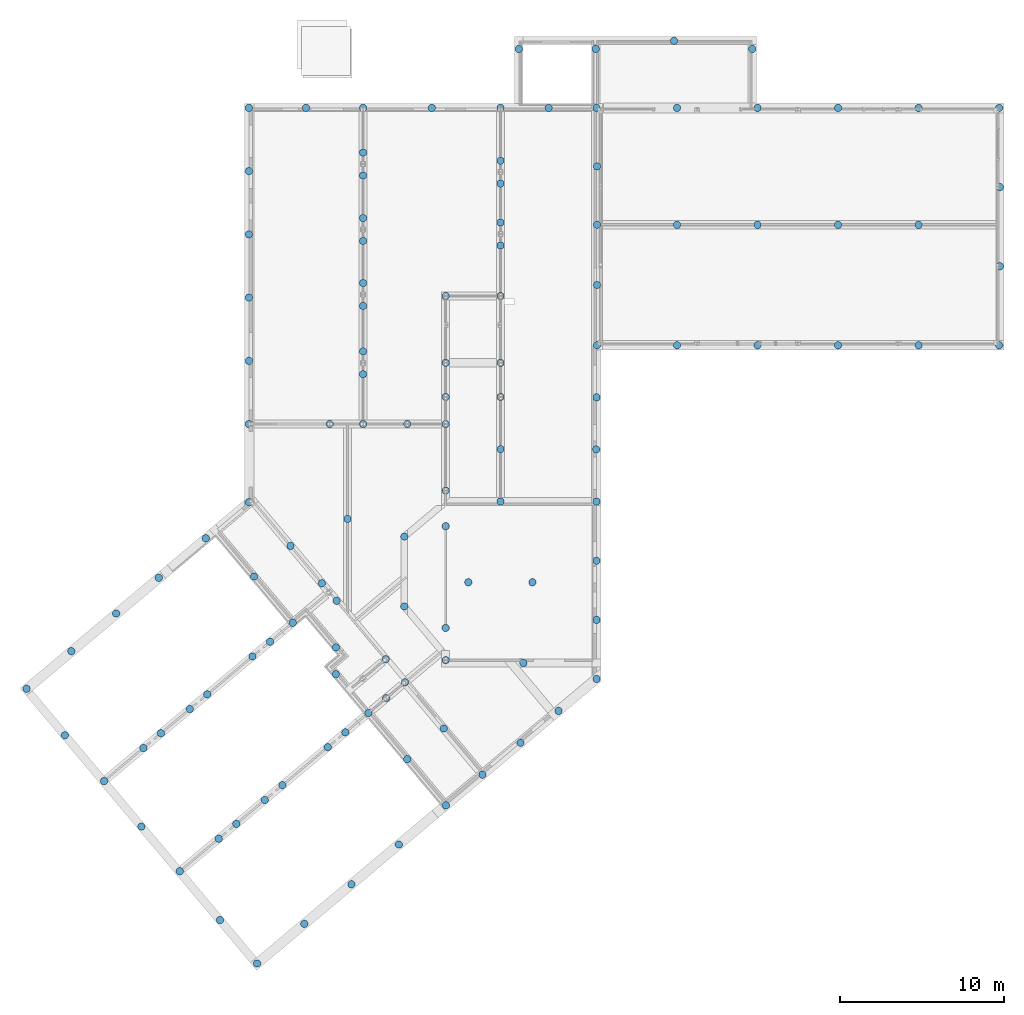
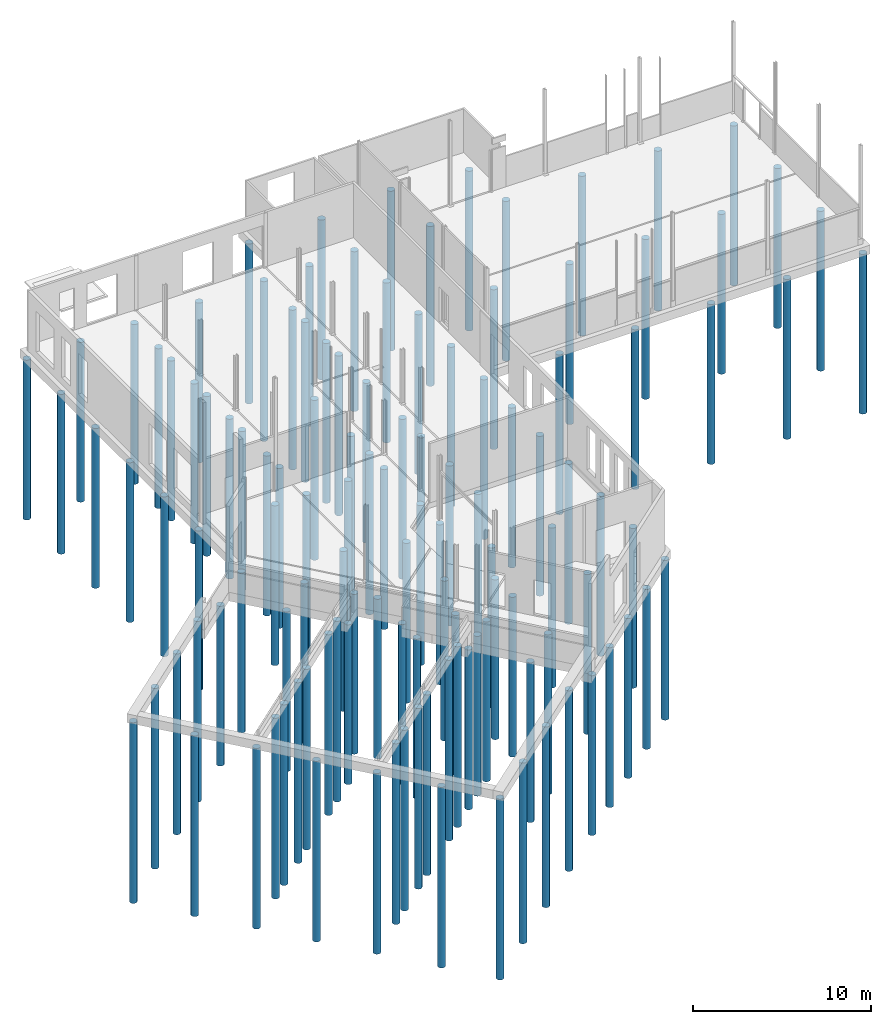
# One storey, part 1 of 18: 120 piles.
"""IFC2X3 building model written with IfcOpenShell, lengths in millimetres."""

from ifc_helpers import new_model, entity, si_unit, converted_unit, derived_unit, direction, frame, frame_2d, origin, place, context, subcontext, project, spatial, circle, extrude, source, transform, mapped, element, save


model = new_model("IFC2X3")

# Units and contexts
model_context = context("Model", 3, precision=0.01, world=origin(), true_north=direction((6.12303176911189e-17, 1.0)))
body_context = subcontext(model_context, "Body", "Model", "MODEL_VIEW")
ifc_project = project(units=[si_unit("LENGTHUNIT", "METRE", prefix="MILLI"), si_unit("AREAUNIT", "SQUARE_METRE"), si_unit("VOLUMEUNIT", "CUBIC_METRE"), converted_unit("PLANEANGLEUNIT", "DEGREE", entity("IfcRatioMeasure", 0.0174532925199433), si_unit("PLANEANGLEUNIT", "RADIAN"), dimensions=[0, 0, 0, 0, 0, 0, 0]), si_unit("MASSUNIT", "GRAM", prefix="KILO"), derived_unit("MASSDENSITYUNIT", [(si_unit("MASSUNIT", "GRAM", prefix="KILO"), 1), (si_unit("LENGTHUNIT", "METRE"), -3)]), derived_unit("MOMENTOFINERTIAUNIT", [(si_unit("LENGTHUNIT", "METRE"), 4)]), si_unit("TIMEUNIT", "SECOND"), si_unit("FREQUENCYUNIT", "HERTZ"), si_unit("THERMODYNAMICTEMPERATUREUNIT", "DEGREE_CELSIUS"), derived_unit("THERMALTRANSMITTANCEUNIT", [(si_unit("MASSUNIT", "GRAM", prefix="KILO"), 1), (si_unit("THERMODYNAMICTEMPERATUREUNIT", "KELVIN"), -1), (si_unit("TIMEUNIT", "SECOND"), -3)]), derived_unit("VOLUMETRICFLOWRATEUNIT", [(si_unit("LENGTHUNIT", "METRE"), 3), (si_unit("TIMEUNIT", "SECOND"), -1)]), si_unit("ELECTRICCURRENTUNIT", "AMPERE"), si_unit("ELECTRICVOLTAGEUNIT", "VOLT"), si_unit("POWERUNIT", "WATT"), si_unit("FORCEUNIT", "NEWTON", prefix="KILO"), si_unit("ILLUMINANCEUNIT", "LUX"), si_unit("LUMINOUSFLUXUNIT", "LUMEN"), si_unit("LUMINOUSINTENSITYUNIT", "CANDELA"), derived_unit("USERDEFINED", [(si_unit("MASSUNIT", "GRAM", prefix="KILO"), -1), (si_unit("LENGTHUNIT", "METRE"), -2), (si_unit("TIMEUNIT", "SECOND"), 3), (si_unit("LUMINOUSFLUXUNIT", "LUMEN"), 1)]), derived_unit("LINEARVELOCITYUNIT", [(si_unit("LENGTHUNIT", "METRE"), 1), (si_unit("TIMEUNIT", "SECOND"), -1)]), si_unit("PRESSUREUNIT", "PASCAL"), derived_unit("USERDEFINED", [(si_unit("LENGTHUNIT", "METRE"), -2), (si_unit("MASSUNIT", "GRAM", prefix="KILO"), 1), (si_unit("TIMEUNIT", "SECOND"), -2)]), derived_unit("LINEARFORCEUNIT", [(si_unit("MASSUNIT", "GRAM", prefix="KILO"), 1), (si_unit("LENGTHUNIT", "METRE"), 1), (si_unit("TIMEUNIT", "SECOND"), -2), (si_unit("LENGTHUNIT", "METRE"), -1)]), derived_unit("PLANARFORCEUNIT", [(si_unit("MASSUNIT", "GRAM", prefix="KILO"), 1), (si_unit("LENGTHUNIT", "METRE"), 1), (si_unit("TIMEUNIT", "SECOND"), -2), (si_unit("LENGTHUNIT", "METRE"), -2)])], contexts=[model_context])

# Site, building, storey
site_placement = place(None, origin())
site = spatial("IfcSite", under=ifc_project, at=site_placement, Name="Default", CompositionType="ELEMENT")
building_placement = place(site_placement, origin())
building = spatial("IfcBuilding", under=site, at=building_placement, CompositionType="ELEMENT")
storey_placement = place(building_placement, frame((0.0, 0.0, -1085.0)))
storey = spatial("IfcBuildingStorey", under=building, at=storey_placement, Name="-00 fundatie", CompositionType="ELEMENT", Elevation=-1085.0)

# Piles
shared_shape_1 = source(origin(), body_context, "Body", "SweptSolid", [
    extrude(circle(Radius=225.0, at=frame_2d((3.38395977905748e-14, -3.30214225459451e-13), x_axis=(1.0, 0.0))), frame((0.0, 0.0, -12000.0), z_axis=(0.0, 0.0, 1.0), x_axis=(-1.0, 0.0, 0.0)), (0.0, 0.0, 1.0), 10955.0),
])
for number, where, name in (
    (1, (13595.4349765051, 35495.9488747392, 1085.0), "BERSnl_17_SFO_TLB_funderingspaal rond_gen_ISR:funderinspaal rond gen d 450"),
    (2, (13595.4349765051, 31632.9488747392, 1085.0), "BERSnl_17_SFO_TLB_funderingspaal rond_gen_ISR:funderinspaal rond gen d 450"),
    (3, (13595.4349765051, 27769.9488747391, 1085.0), "BERSnl_17_SFO_TLB_funderingspaal rond_gen_ISR:funderinspaal rond gen d 450"),
    (4, (13595.4349765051, 23906.9488747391, 1085.0), "BERSnl_17_SFO_TLB_funderingspaal rond_gen_ISR:funderinspaal rond gen d 450"),
    (5, (13595.4349765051, 20043.9488747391, 1085.0), "BERSnl_17_SFO_TLB_funderingspaal rond_gen_ISR:funderinspaal rond gen d 450"),
    (6, (13595.4349765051, 16181.9025809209, 1085.0), "BERSnl_17_SFO_TLB_funderingspaal rond_gen_ISR:funderinspaal rond gen d 450"),
    (7, (13595.4349765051, 11407.9244744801, 1085.0), "BERSnl_17_SFO_TLB_funderingspaal rond_gen_ISR:funderinspaal rond gen d 450"),
    (8, (20569.4349765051, 35495.9488747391, 1085.0), "BERSnl_17_SFO_TLB_funderingspaal rond_gen_ISR:funderinspaal rond gen d 450"),
    (9, (17082.4349765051, 35495.9488747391, 1085.0), "BERSnl_17_SFO_TLB_funderingspaal rond_gen_ISR:funderinspaal rond gen d 450"),
    (10, (20569.4349765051, 32767.2966282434, 1085.0), "BERSnl_17_SFO_TLB_funderingspaal rond_gen_ISR:funderinspaal rond gen d 450"),
    (11, (20569.4349765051, 31367.2966282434, 1085.0), "BERSnl_17_SFO_TLB_funderingspaal rond_gen_ISR:funderinspaal rond gen d 450"),
    (12, (20569.4349765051, 28767.2966282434, 1085.0), "BERSnl_17_SFO_TLB_funderingspaal rond_gen_ISR:funderinspaal rond gen d 450"),
    (13, (20569.4349765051, 27367.2966282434, 1085.0), "BERSnl_17_SFO_TLB_funderingspaal rond_gen_ISR:funderinspaal rond gen d 450"),
    (14, (20569.4349765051, 24797.2966282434, 1085.0), "BERSnl_17_SFO_TLB_funderingspaal rond_gen_ISR:funderinspaal rond gen d 450"),
    (15, (20569.4349765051, 23397.2966282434, 1085.0), "BERSnl_17_SFO_TLB_funderingspaal rond_gen_ISR:funderinspaal rond gen d 450"),
    (16, (20569.4349765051, 20621.8399254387, 1085.0), "BERSnl_17_SFO_TLB_funderingspaal rond_gen_ISR:funderinspaal rond gen d 450"),
    (17, (20569.4349765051, 19221.8399254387, 1085.0), "BERSnl_17_SFO_TLB_funderingspaal rond_gen_ISR:funderinspaal rond gen d 450"),
    (18, (28969.4349765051, 35495.9488747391, 1085.0), "BERSnl_17_SFO_TLB_funderingspaal rond_gen_ISR:funderinspaal rond gen d 450"),
    (19, (24769.4349765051, 35495.9488747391, 1085.0), "BERSnl_17_SFO_TLB_funderingspaal rond_gen_ISR:funderinspaal rond gen d 450"),
    (20, (28969.4349765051, 32272.2966282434, 1085.0), "BERSnl_17_SFO_TLB_funderingspaal rond_gen_ISR:funderinspaal rond gen d 450"),
    (21, (28969.4349765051, 30872.2966282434, 1085.0), "BERSnl_17_SFO_TLB_funderingspaal rond_gen_ISR:funderinspaal rond gen d 450"),
    (22, (28969.4349765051, 28492.2966282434, 1085.0), "BERSnl_17_SFO_TLB_funderingspaal rond_gen_ISR:funderinspaal rond gen d 450"),
    (23, (28969.4349765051, 27092.2966282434, 1085.0), "BERSnl_17_SFO_TLB_funderingspaal rond_gen_ISR:funderinspaal rond gen d 450"),
    (24, (28969.4349765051, 24002.2966282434, 1085.0), "BERSnl_17_SFO_TLB_funderingspaal rond_gen_ISR:funderinspaal rond gen d 450"),
    (25, (25615.4349765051, 24002.2966282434, 1085.0), "BERSnl_17_SFO_TLB_funderingspaal rond_gen_ISR:funderinspaal rond gen d 450"),
    (26, (28969.4349765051, 19921.8399254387, 1085.0), "BERSnl_17_SFO_TLB_funderingspaal rond_gen_ISR:funderinspaal rond gen d 450"),
    (27, (25615.434976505, 19921.8399254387, 1085.0), "BERSnl_17_SFO_TLB_funderingspaal rond_gen_ISR:funderinspaal rond gen d 450"),
    (28, (28969.4349765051, 17833.5697997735, 1085.0), "BERSnl_17_SFO_TLB_funderingspaal rond_gen_ISR:funderinspaal rond gen d 450"),
    (29, (25615.434976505, 17833.5697997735, 1085.0), "BERSnl_17_SFO_TLB_funderingspaal rond_gen_ISR:funderinspaal rond gen d 450"),
    (30, (25615.434976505, 16182.2966282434, 1085.0), "BERSnl_17_SFO_TLB_funderingspaal rond_gen_ISR:funderinspaal rond gen d 450"),
    (31, (25615.434976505, 12114.0621216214, 1085.0), "BERSnl_17_SFO_TLB_funderingspaal rond_gen_ISR:funderinspaal rond gen d 450"),
    (32, (28969.4349765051, 11442.2966282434, 1085.0), "BERSnl_17_SFO_TLB_funderingspaal rond_gen_ISR:funderinspaal rond gen d 450"),
    (33, (28969.4349765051, 14642.2966282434, 1085.0), "BERSnl_17_SFO_TLB_funderingspaal rond_gen_ISR:funderinspaal rond gen d 450"),
    (34, (18535.4349765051, 16181.9025809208, 1085.0), "BERSnl_17_SFO_TLB_funderingspaal rond_gen_ISR:funderinspaal rond gen d 450"),
    (35, (20567.4349765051, 16181.9025809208, 1085.0), "BERSnl_17_SFO_TLB_funderingspaal rond_gen_ISR:funderinspaal rond gen d 450"),
    (36, (23267.4349765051, 16181.9025809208, 1085.0), "BERSnl_17_SFO_TLB_funderingspaal rond_gen_ISR:funderinspaal rond gen d 450"),
    (37, (30085.4349765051, 39096.2966282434, 1085.0), "BERSnl_17_SFO_TLB_funderingspaal rond_gen_ISR:funderinspaal rond gen d 450"),
    (38, (34783.4270571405, 39097.2928714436, 1085.0), "BERSnl_17_SFO_TLB_funderingspaal rond_gen_ISR:funderinspaal rond gen d 450"),
    (39, (34834.4349765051, 35495.9488747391, 1085.0), "BERSnl_17_SFO_TLB_funderingspaal rond_gen_ISR:funderinspaal rond gen d 450"),
    (40, (44353.4270571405, 39097.2928714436, 1085.0), "BERSnl_17_SFO_TLB_funderingspaal rond_gen_ISR:funderinspaal rond gen d 450"),
    (41, (39568.4270571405, 39595.9488747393, 1085.0), "BERSnl_17_SFO_TLB_funderingspaal rond_gen_ISR:funderinspaal rond gen d 450"),
    (42, (59434.4349765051, 35495.948874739, 1085.0), "BERSnl_17_SFO_TLB_funderingspaal rond_gen_ISR:funderinspaal rond gen d 450"),
    (43, (39754.4349765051, 35495.9488747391, 1085.0), "BERSnl_17_SFO_TLB_funderingspaal rond_gen_ISR:funderinspaal rond gen d 450"),
    (44, (44674.4349765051, 35495.948874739, 1085.0), "BERSnl_17_SFO_TLB_funderingspaal rond_gen_ISR:funderinspaal rond gen d 450"),
    (45, (49594.4349765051, 35495.948874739, 1085.0), "BERSnl_17_SFO_TLB_funderingspaal rond_gen_ISR:funderinspaal rond gen d 450"),
    (46, (54514.4349765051, 35495.9488747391, 1085.0), "BERSnl_17_SFO_TLB_funderingspaal rond_gen_ISR:funderinspaal rond gen d 450"),
    (47, (34863.4270571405, 28356.4404189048, 1085.0), "BERSnl_17_SFO_TLB_funderingspaal rond_gen_ISR:funderinspaal rond gen d 450"),
    (48, (34863.4270571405, 31926.4404189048, 1085.0), "BERSnl_17_SFO_TLB_funderingspaal rond_gen_ISR:funderinspaal rond gen d 450"),
    (49, (44674.4349765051, 20995.9488747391, 1085.0), "BERSnl_17_SFO_TLB_funderingspaal rond_gen_ISR:funderinspaal rond gen d 450"),
    (50, (49594.4349765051, 20995.9488747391, 1085.0), "BERSnl_17_SFO_TLB_funderingspaal rond_gen_ISR:funderinspaal rond gen d 450"),
    (51, (54514.4349765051, 20995.9488747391, 1085.0), "BERSnl_17_SFO_TLB_funderingspaal rond_gen_ISR:funderinspaal rond gen d 450"),
    (52, (39754.4349765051, 20995.601121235, 1085.0), "BERSnl_17_SFO_TLB_funderingspaal rond_gen_ISR:funderinspaal rond gen d 450"),
    (53, (34863.4270571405, 20995.9488747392, 1085.0), "BERSnl_17_SFO_TLB_funderingspaal rond_gen_ISR:funderinspaal rond gen d 450"),
    (54, (34863.4270571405, 24676.4404189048, 1085.0), "BERSnl_17_SFO_TLB_funderingspaal rond_gen_ISR:funderinspaal rond gen d 450"),
    (55, (59434.4349765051, 20995.948874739, 1085.0), "BERSnl_17_SFO_TLB_funderingspaal rond_gen_ISR:funderinspaal rond gen d 450"),
    (56, (59483.4270571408, 25825.948874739, 1085.0), "BERSnl_17_SFO_TLB_funderingspaal rond_gen_ISR:funderinspaal rond gen d 450"),
    (57, (59483.4270571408, 30655.948874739, 1085.0), "BERSnl_17_SFO_TLB_funderingspaal rond_gen_ISR:funderinspaal rond gen d 450"),
    (58, (44674.4349765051, 28353.0926654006, 1085.0), "BERSnl_17_SFO_TLB_funderingspaal rond_gen_ISR:funderinspaal rond gen d 450"),
    (59, (49594.4349765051, 28353.0926654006, 1085.0), "BERSnl_17_SFO_TLB_funderingspaal rond_gen_ISR:funderinspaal rond gen d 450"),
    (60, (54514.4349765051, 28353.0926654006, 1085.0), "BERSnl_17_SFO_TLB_funderingspaal rond_gen_ISR:funderinspaal rond gen d 450"),
    (61, (39754.4349765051, 28352.7449118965, 1085.0), "BERSnl_17_SFO_TLB_funderingspaal rond_gen_ISR:funderinspaal rond gen d 450"),
    (62, (34833.4270571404, 11442.2966282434, 1085.0), "BERSnl_17_SFO_TLB_funderingspaal rond_gen_ISR:funderinspaal rond gen d 450"),
    (63, (34833.4270571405, 17811.9488747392, 1085.0), "BERSnl_17_SFO_TLB_funderingspaal rond_gen_ISR:funderinspaal rond gen d 450"),
    (64, (34813.4270571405, 14631.9488747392, 1085.0), "BERSnl_17_SFO_TLB_funderingspaal rond_gen_ISR:funderinspaal rond gen d 450"),
    (65, (34833.4270571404, 603.744755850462, 1085.0), "BERSnl_17_SFO_TLB_funderingspaal rond_gen_ISR:funderinspaal rond gen d 450"),
    (66, (34833.4270571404, 7829.29662824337, 1085.0), "BERSnl_17_SFO_TLB_funderingspaal rond_gen_ISR:funderinspaal rond gen d 450"),
    (67, (34833.4270571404, 4216.29662824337, 1085.0), "BERSnl_17_SFO_TLB_funderingspaal rond_gen_ISR:funderinspaal rond gen d 450"),
    (68, (23090.4349765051, 9303.0220841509, 1085.0), "BERSnl_17_SFO_TLB_funderingspaal rond_gen_ISR:funderinspaal rond gen d 450"),
    (69, (23090.4349765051, 5033.84922350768, 1085.0), "BERSnl_17_SFO_TLB_funderingspaal rond_gen_ISR:funderinspaal rond gen d 450"),
    (70, (25615.4349765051, 3722.29662827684, 1085.0), "BERSnl_17_SFO_TLB_funderingspaal rond_gen_ISR:funderinspaal rond gen d 450"),
    (71, (25615.4349765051, 1751.92480613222, 1085.0), "BERSnl_17_SFO_TLB_funderingspaal rond_gen_ISR:funderinspaal rond gen d 450"),
    (72, (19619.4349765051, 10382.4502004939, 1085.0), "BERSnl_17_SFO_TLB_funderingspaal rond_gen_ISR:funderinspaal rond gen d 450"),
    (73, (16136.3928945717, 8733.53168704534, 1085.0), "BERSnl_17_SFO_TLB_funderingspaal rond_gen_ISR:funderinspaal rond gen d 450"),
    (74, (18053.1855466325, 6449.18715769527, 1085.0), "BERSnl_17_SFO_TLB_funderingspaal rond_gen_ISR:funderinspaal rond gen d 450"),
    (75, (23131.2076631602, 397.436057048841, 1085.0), "BERSnl_17_SFO_TLB_funderingspaal rond_gen_ISR:funderinspaal rond gen d 450"),
    (76, (27864.7065899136, -5243.72829445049, 1085.0), "BERSnl_17_SFO_TLB_funderingspaal rond_gen_ISR:funderinspaal rond gen d 450"),
    (77, (25497.9626110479, -2423.15265488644, 1085.0), "BERSnl_17_SFO_TLB_funderingspaal rond_gen_ISR:funderinspaal rond gen d 450"),
    (78, (25631.6870382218, -7117.45417668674, 1085.0), "BERSnl_17_SFO_TLB_funderingspaal rond_gen_ISR:funderinspaal rond gen d 450"),
    (79, (23264.9430593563, -4296.87853712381, 1085.0), "BERSnl_17_SFO_TLB_funderingspaal rond_gen_ISR:funderinspaal rond gen d 450"),
    (80, (21983.3124069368, -565.762429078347, 1085.0), "BERSnl_17_SFO_TLB_funderingspaal rond_gen_ISR:funderinspaal rond gen d 450"),
    (81, (20895.5292977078, -1478.52083483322, 1085.0), "BERSnl_17_SFO_TLB_funderingspaal rond_gen_ISR:funderinspaal rond gen d 450"),
    (82, (18906.1876926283, 892.26021978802, 1085.0), "BERSnl_17_SFO_TLB_funderingspaal rond_gen_ISR:funderinspaal rond gen d 450"),
    (83, (18906.1876926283, 2533.12217781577, 1085.0), "BERSnl_17_SFO_TLB_funderingspaal rond_gen_ISR:funderinspaal rond gen d 450"),
    (84, (16270.1173217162, 4039.23016527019, 1085.0), "BERSnl_17_SFO_TLB_funderingspaal rond_gen_ISR:funderinspaal rond gen d 450"),
    (85, (13903.3733428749, 6859.80580480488, 1085.0), "BERSnl_17_SFO_TLB_funderingspaal rond_gen_ISR:funderinspaal rond gen d 450"),
    (86, (10962.0960316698, 9198.29073710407, 1085.0), "BERSnl_17_SFO_TLB_funderingspaal rond_gen_ISR:funderinspaal rond gen d 450"),
    (87, (27004.4349765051, 6509.92480613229, 1085.0), "BERSnl_17_SFO_TLB_funderingspaal rond_gen_ISR:funderinspaal rond gen d 450"),
    (88, (30918.4349765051, 6509.92480613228, 1085.0), "BERSnl_17_SFO_TLB_funderingspaal rond_gen_ISR:funderinspaal rond gen d 450"),
    (89, (30187.3533414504, -3294.79626188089, 1085.0), "BERSnl_17_SFO_TLB_funderingspaal rond_gen_ISR:funderinspaal rond gen d 450"),
    (90, (32510.0000929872, -1345.86422931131, 1085.0), "BERSnl_17_SFO_TLB_funderingspaal rond_gen_ISR:funderinspaal rond gen d 450"),
    (91, (21948.478461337, 1806.95783238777, 1085.0), "BERSnl_17_SFO_TLB_funderingspaal rond_gen_ISR:funderinspaal rond gen d 450"),
    (92, (18952.1116613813, 5377.88873096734, 1085.0), "BERSnl_17_SFO_TLB_funderingspaal rond_gen_ISR:funderinspaal rond gen d 450"),
    (93, (31909.4349765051, 35495.9488747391, 1085.0), "BERSnl_17_SFO_TLB_funderingspaal rond_gen_ISR:funderinspaal rond gen d 450"),
):
    element("IfcPile", number, at=place(storey_placement, frame(where)), inside=storey, Name=name, ObjectType="BERSnl_17_SFO_TLB_funderingspaal rond_gen_ISR:funderinspaal rond gen d 450", PredefinedType="NOTDEFINED", context=body_context, shape_type="MappedRepresentation", body=[
        mapped(shared_shape_1, transform((0.0, 0.0, 0.0), scale=1.0)),
    ])
shared_shape_2 = source(origin(), body_context, "Body", "SweptSolid", [
    extrude(circle(Radius=225.0, at=frame_2d((3.38395977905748e-14, -3.30214225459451e-13), x_axis=(1.0, 0.0))), frame((0.0, 0.0, -12000.0), z_axis=(0.0, 0.0, 1.0), x_axis=(-1.0, 0.0, 0.0)), (0.0, 0.0, 1.0), 10955.0),
])
pile_1_placement = place(storey_placement, frame((25615.4349765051, 9937.2966282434, 1085.0)))
element("IfcPile", 94, at=pile_1_placement, inside=storey, Name="BERSnl_17_SFO_TLB_funderingspaal rond_gen_ISR:funderinspaal rond gen d 450-1", ObjectType="BERSnl_17_SFO_TLB_funderingspaal rond_gen_ISR:funderinspaal rond gen d 450-1", PredefinedType="NOTDEFINED", context=body_context, shape_type="MappedRepresentation", body=[
    mapped(shared_shape_2, transform((0.0, 0.0, 0.0), scale=1.0)),
])
shared_shape_3 = source(origin(), body_context, "Body", "SweptSolid", [
    extrude(circle(Radius=225.0, at=frame_2d((3.38395977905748e-14, -3.30214225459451e-13), x_axis=(1.0, 0.0))), frame((0.0, 0.0, -12000.0), z_axis=(0.0, 0.0, 1.0), x_axis=(-1.0, 0.0, 0.0)), (0.0, 0.0, 1.0), 10955.0),
])
pile_2_placement = place(storey_placement, frame((30365.4349765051, 1577.29662827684, 1085.0)))
element("IfcPile", 95, at=pile_2_placement, inside=storey, Name="BERSnl_17_SFO_TLB_funderingspaal rond_gen_ISR:funderinspaal rond gen d 450-2", ObjectType="BERSnl_17_SFO_TLB_funderingspaal rond_gen_ISR:funderinspaal rond gen d 450-2", PredefinedType="NOTDEFINED", context=body_context, shape_type="MappedRepresentation", body=[
    mapped(shared_shape_3, transform((0.0, 0.0, 0.0), scale=1.0)),
])
shared_shape_4 = source(origin(), body_context, "Body", "SweptSolid", [
    extrude(circle(Radius=225.0, at=frame_2d((3.38395977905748e-14, -3.30214225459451e-13), x_axis=(1.0, 0.0))), frame((0.0, 0.0, -12000.0), z_axis=(0.0, 0.0, 1.0), x_axis=(-1.0, 0.0, 0.0)), (0.0, 0.0, 1.0), 12385.0),
])
for number, where, name in (
    (96, (14093.7081737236, -16780.670007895, 1085.0), "BERSnl_17_SFO_TLB_funderingspaal rond_gen_ISR:funderinspaal rond gen d 450-3"),
    (97, (16977.8655020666, -14360.5746574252, 1085.0), "BERSnl_17_SFO_TLB_funderingspaal rond_gen_ISR:funderinspaal rond gen d 450-3"),
    (98, (19858.1926081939, -11943.6932450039, 1085.0), "BERSnl_17_SFO_TLB_funderingspaal rond_gen_ISR:funderinspaal rond gen d 450-3"),
    (99, (22753.8406031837, -9513.95608038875, 1085.0), "BERSnl_17_SFO_TLB_funderingspaal rond_gen_ISR:funderinspaal rond gen d 450-3"),
    (100, (9366.00530447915, -11146.4131287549, 1085.0), "BERSnl_17_SFO_TLB_funderingspaal rond_gen_ISR:funderinspaal rond gen d 450-3"),
    (101, (11830.4517877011, -14129.9201937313, 1085.0), "BERSnl_17_SFO_TLB_funderingspaal rond_gen_ISR:funderinspaal rond gen d 450-3"),
    (102, (11746.2766843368, -9155.6553282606, 1085.0), "BERSnl_17_SFO_TLB_funderingspaal rond_gen_ISR:funderinspaal rond gen d 450-3"),
    (103, (12824.0796303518, -8251.27127377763, 1085.0), "BERSnl_17_SFO_TLB_funderingspaal rond_gen_ISR:funderinspaal rond gen d 450-3"),
    (104, (14562.2560572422, -6792.7680750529, 1085.0), "BERSnl_17_SFO_TLB_funderingspaal rond_gen_ISR:funderinspaal rond gen d 450-3"),
    (105, (15640.0590032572, -5888.38402056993, 1085.0), "BERSnl_17_SFO_TLB_funderingspaal rond_gen_ISR:funderinspaal rond gen d 450-3"),
    (106, (18410.8633394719, -3563.40312398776, 1085.0), "BERSnl_17_SFO_TLB_funderingspaal rond_gen_ISR:funderinspaal rond gen d 450-3"),
    (107, (19488.666285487, -2659.01906950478, 1085.0), "BERSnl_17_SFO_TLB_funderingspaal rond_gen_ISR:funderinspaal rond gen d 450-3"),
    (108, (4741.14845278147, -5634.72336051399, 1085.0), "BERSnl_17_SFO_TLB_funderingspaal rond_gen_ISR:funderinspaal rond gen d 450-3"),
    (109, (7023.5775501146, -8417.0454930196, 1085.0), "BERSnl_17_SFO_TLB_funderingspaal rond_gen_ISR:funderinspaal rond gen d 450-3"),
    (110, (7144.44878289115, -3613.89244950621, 1085.0), "BERSnl_17_SFO_TLB_funderingspaal rond_gen_ISR:funderinspaal rond gen d 450-3"),
    (111, (8216.91100325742, -2713.9897959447, 1085.0), "BERSnl_17_SFO_TLB_funderingspaal rond_gen_ISR:funderinspaal rond gen d 450-3"),
    (112, (9978.81322243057, -1235.57829366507, 1085.0), "BERSnl_17_SFO_TLB_funderingspaal rond_gen_ISR:funderinspaal rond gen d 450-3"),
    (113, (11051.2754427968, -335.675640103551, 1085.0), "BERSnl_17_SFO_TLB_funderingspaal rond_gen_ISR:funderinspaal rond gen d 450-3"),
    (114, (13809.0354380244, 1978.35975476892, 1085.0), "BERSnl_17_SFO_TLB_funderingspaal rond_gen_ISR:funderinspaal rond gen d 450-3"),
    (115, (14881.4976583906, 2878.26240833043, 1085.0), "BERSnl_17_SFO_TLB_funderingspaal rond_gen_ISR:funderinspaal rond gen d 450-3"),
    (116, (7.66049507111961, 6.42791858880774, 1085.0), "BERSnl_17_SFO_TLB_funderingspaal rond_gen_ISR:funderinspaal rond gen d 450-3"),
    (117, (2343.76264555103, -2839.85926782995, 1085.0), "BERSnl_17_SFO_TLB_funderingspaal rond_gen_ISR:funderinspaal rond gen d 450-3"),
    (118, (2741.67311256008, 2300.53689755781, 1085.0), "BERSnl_17_SFO_TLB_funderingspaal rond_gen_ISR:funderinspaal rond gen d 450-3"),
    (119, (5481.81408559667, 4599.78817740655, 1085.0), "BERSnl_17_SFO_TLB_funderingspaal rond_gen_ISR:funderinspaal rond gen d 450-3"),
    (120, (8084.06705887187, 6783.33768751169, 1085.0), "BERSnl_17_SFO_TLB_funderingspaal rond_gen_ISR:funderinspaal rond gen d 450-3"),
):
    element("IfcPile", number, at=place(storey_placement, frame(where)), inside=storey, Name=name, ObjectType="BERSnl_17_SFO_TLB_funderingspaal rond_gen_ISR:funderinspaal rond gen d 450-3", PredefinedType="NOTDEFINED", context=body_context, shape_type="MappedRepresentation", body=[
        mapped(shared_shape_4, transform((0.0, 0.0, 0.0), scale=1.0)),
    ])

save(model, "model.ifc")
